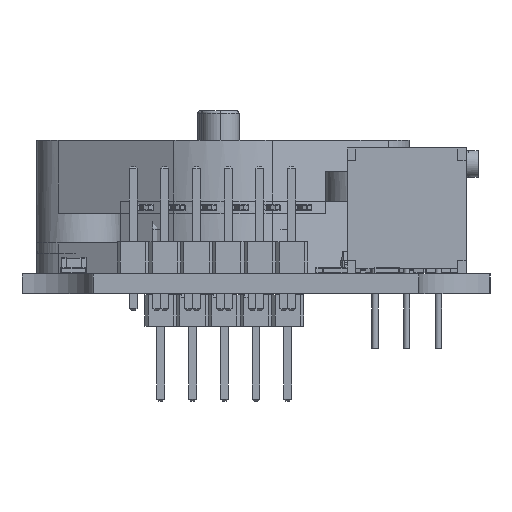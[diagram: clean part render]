
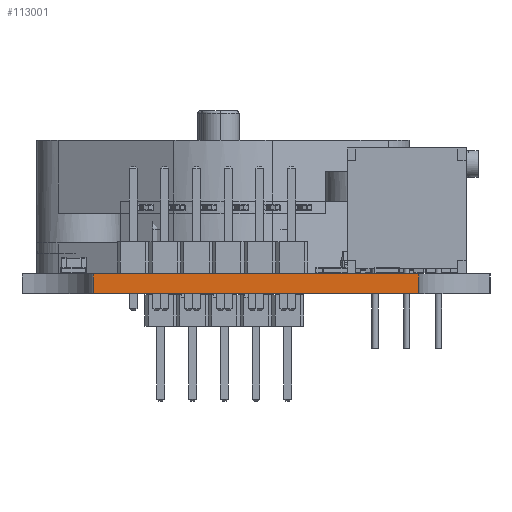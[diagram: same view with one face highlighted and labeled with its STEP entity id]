
A CAD part, left-side view. The second image highlights one B-rep face of the part: STEP entity #113001.
In plain terms, the highlighted planar face has unit normal (-1, 0, 0).
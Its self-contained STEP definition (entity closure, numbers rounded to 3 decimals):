
#110513 = CYLINDRICAL_SURFACE('',#110514,5.715);
#110514 = AXIS2_PLACEMENT_3D('',#110515,#110516,#110517);
#110515 = CARTESIAN_POINT('',(-50.006,18.733,0.));
#110516 = DIRECTION('',(0.,0.,-1.));
#110517 = DIRECTION('',(1.,0.,0.));
#110541 = PLANE('',#110542);
#110542 = AXIS2_PLACEMENT_3D('',#110543,#110544,#110545);
#110543 = CARTESIAN_POINT('',(-26.194,0.,1.6));
#110544 = DIRECTION('',(0.,0.,-1.));
#110545 = DIRECTION('',(-1.,0.,0.));
#110595 = PLANE('',#110596);
#110596 = AXIS2_PLACEMENT_3D('',#110597,#110598,#110599);
#110597 = CARTESIAN_POINT('',(-26.194,0.,0.));
#110598 = DIRECTION('',(0.,0.,-1.));
#110599 = DIRECTION('',(-1.,0.,0.));
#110610 = EDGE_CURVE('',#110611,#110613,#110615,.T.);
#110611 = VERTEX_POINT('',#110612);
#110612 = CARTESIAN_POINT('',(-50.006,13.018,0.));
#110613 = VERTEX_POINT('',#110614);
#110614 = CARTESIAN_POINT('',(-50.006,13.018,1.6));
#110615 = SURFACE_CURVE('',#110616,(#110620,#110627),.PCURVE_S1.);
#110616 = LINE('',#110617,#110618);
#110617 = CARTESIAN_POINT('',(-50.006,13.018,0.));
#110618 = VECTOR('',#110619,1.);
#110619 = DIRECTION('',(0.,0.,1.));
#110620 = PCURVE('',#110513,#110621);
#110621 = DEFINITIONAL_REPRESENTATION('',(#110622),#110626);
#110622 = LINE('',#110623,#110624);
#110623 = CARTESIAN_POINT('',(-4.712,0.));
#110624 = VECTOR('',#110625,1.);
#110625 = DIRECTION('',(0.,-1.));
#110626 = ( GEOMETRIC_REPRESENTATION_CONTEXT(2) 
PARAMETRIC_REPRESENTATION_CONTEXT() REPRESENTATION_CONTEXT('2D SPACE',''
  ) );
#110627 = PCURVE('',#110628,#110633);
#110628 = PLANE('',#110629);
#110629 = AXIS2_PLACEMENT_3D('',#110630,#110631,#110632);
#110630 = CARTESIAN_POINT('',(-50.006,-13.018,0.));
#110631 = DIRECTION('',(-1.,0.,0.));
#110632 = DIRECTION('',(0.,1.,0.));
#110633 = DEFINITIONAL_REPRESENTATION('',(#110634),#110638);
#110634 = LINE('',#110635,#110636);
#110635 = CARTESIAN_POINT('',(26.035,0.));
#110636 = VECTOR('',#110637,1.);
#110637 = DIRECTION('',(0.,-1.));
#110638 = ( GEOMETRIC_REPRESENTATION_CONTEXT(2) 
PARAMETRIC_REPRESENTATION_CONTEXT() REPRESENTATION_CONTEXT('2D SPACE',''
  ) );
#110869 = VERTEX_POINT('',#110870);
#110870 = CARTESIAN_POINT('',(-50.006,-13.018,0.));
#110889 = CYLINDRICAL_SURFACE('',#110890,5.715);
#110890 = AXIS2_PLACEMENT_3D('',#110891,#110892,#110893);
#110891 = CARTESIAN_POINT('',(-50.006,-18.733,0.));
#110892 = DIRECTION('',(0.,0.,-1.));
#110893 = DIRECTION('',(1.,0.,0.));
#110901 = EDGE_CURVE('',#110869,#110611,#110902,.T.);
#110902 = SURFACE_CURVE('',#110903,(#110907,#110914),.PCURVE_S1.);
#110903 = LINE('',#110904,#110905);
#110904 = CARTESIAN_POINT('',(-50.006,-13.018,0.));
#110905 = VECTOR('',#110906,1.);
#110906 = DIRECTION('',(0.,1.,0.));
#110907 = PCURVE('',#110595,#110908);
#110908 = DEFINITIONAL_REPRESENTATION('',(#110909),#110913);
#110909 = LINE('',#110910,#110911);
#110910 = CARTESIAN_POINT('',(23.813,-13.018));
#110911 = VECTOR('',#110912,1.);
#110912 = DIRECTION('',(0.,1.));
#110913 = ( GEOMETRIC_REPRESENTATION_CONTEXT(2) 
PARAMETRIC_REPRESENTATION_CONTEXT() REPRESENTATION_CONTEXT('2D SPACE',''
  ) );
#110914 = PCURVE('',#110628,#110915);
#110915 = DEFINITIONAL_REPRESENTATION('',(#110916),#110920);
#110916 = LINE('',#110917,#110918);
#110917 = CARTESIAN_POINT('',(0.,0.));
#110918 = VECTOR('',#110919,1.);
#110919 = DIRECTION('',(1.,0.));
#110920 = ( GEOMETRIC_REPRESENTATION_CONTEXT(2) 
PARAMETRIC_REPRESENTATION_CONTEXT() REPRESENTATION_CONTEXT('2D SPACE',''
  ) );
#112053 = VERTEX_POINT('',#112054);
#112054 = CARTESIAN_POINT('',(-50.006,-13.018,1.6));
#112080 = EDGE_CURVE('',#112053,#110613,#112081,.T.);
#112081 = SURFACE_CURVE('',#112082,(#112086,#112093),.PCURVE_S1.);
#112082 = LINE('',#112083,#112084);
#112083 = CARTESIAN_POINT('',(-50.006,-13.018,1.6));
#112084 = VECTOR('',#112085,1.);
#112085 = DIRECTION('',(0.,1.,0.));
#112086 = PCURVE('',#110541,#112087);
#112087 = DEFINITIONAL_REPRESENTATION('',(#112088),#112092);
#112088 = LINE('',#112089,#112090);
#112089 = CARTESIAN_POINT('',(23.813,-13.018));
#112090 = VECTOR('',#112091,1.);
#112091 = DIRECTION('',(0.,1.));
#112092 = ( GEOMETRIC_REPRESENTATION_CONTEXT(2) 
PARAMETRIC_REPRESENTATION_CONTEXT() REPRESENTATION_CONTEXT('2D SPACE',''
  ) );
#112093 = PCURVE('',#110628,#112094);
#112094 = DEFINITIONAL_REPRESENTATION('',(#112095),#112099);
#112095 = LINE('',#112096,#112097);
#112096 = CARTESIAN_POINT('',(0.,-1.6));
#112097 = VECTOR('',#112098,1.);
#112098 = DIRECTION('',(1.,0.));
#112099 = ( GEOMETRIC_REPRESENTATION_CONTEXT(2) 
PARAMETRIC_REPRESENTATION_CONTEXT() REPRESENTATION_CONTEXT('2D SPACE',''
  ) );
#113001 = ADVANCED_FACE('',(#113002),#110628,.T.);
#113002 = FACE_BOUND('',#113003,.T.);
#113003 = EDGE_LOOP('',(#113004,#113025,#113026,#113027));
#113004 = ORIENTED_EDGE('',*,*,#113005,.T.);
#113005 = EDGE_CURVE('',#110869,#112053,#113006,.T.);
#113006 = SURFACE_CURVE('',#113007,(#113011,#113018),.PCURVE_S1.);
#113007 = LINE('',#113008,#113009);
#113008 = CARTESIAN_POINT('',(-50.006,-13.018,0.));
#113009 = VECTOR('',#113010,1.);
#113010 = DIRECTION('',(0.,0.,1.));
#113011 = PCURVE('',#110628,#113012);
#113012 = DEFINITIONAL_REPRESENTATION('',(#113013),#113017);
#113013 = LINE('',#113014,#113015);
#113014 = CARTESIAN_POINT('',(0.,0.));
#113015 = VECTOR('',#113016,1.);
#113016 = DIRECTION('',(0.,-1.));
#113017 = ( GEOMETRIC_REPRESENTATION_CONTEXT(2) 
PARAMETRIC_REPRESENTATION_CONTEXT() REPRESENTATION_CONTEXT('2D SPACE',''
  ) );
#113018 = PCURVE('',#110889,#113019);
#113019 = DEFINITIONAL_REPRESENTATION('',(#113020),#113024);
#113020 = LINE('',#113021,#113022);
#113021 = CARTESIAN_POINT('',(-1.571,0.));
#113022 = VECTOR('',#113023,1.);
#113023 = DIRECTION('',(0.,-1.));
#113024 = ( GEOMETRIC_REPRESENTATION_CONTEXT(2) 
PARAMETRIC_REPRESENTATION_CONTEXT() REPRESENTATION_CONTEXT('2D SPACE',''
  ) );
#113025 = ORIENTED_EDGE('',*,*,#112080,.T.);
#113026 = ORIENTED_EDGE('',*,*,#110610,.F.);
#113027 = ORIENTED_EDGE('',*,*,#110901,.F.);
